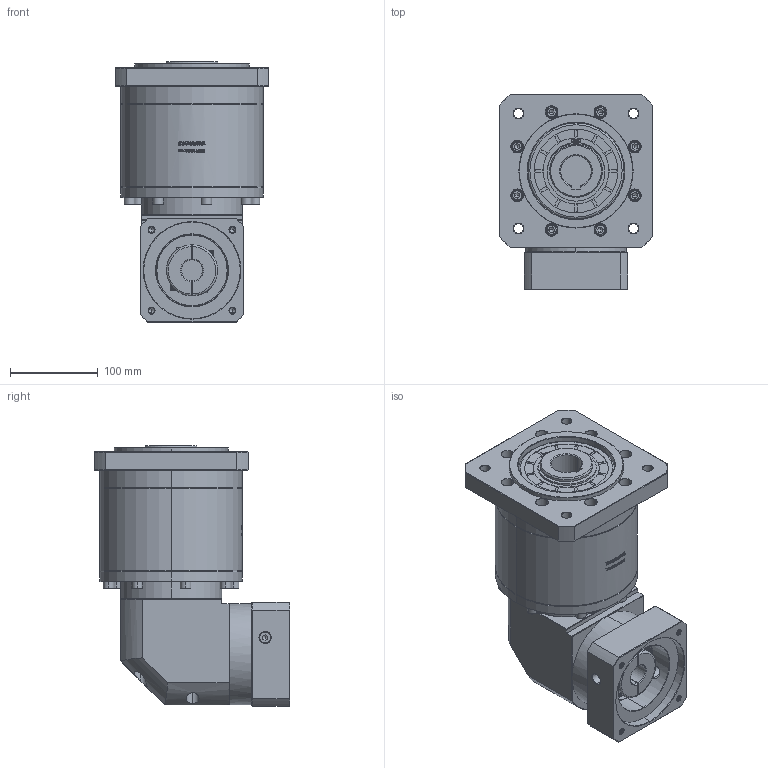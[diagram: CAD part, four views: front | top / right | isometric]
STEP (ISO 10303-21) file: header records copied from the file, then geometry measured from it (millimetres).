
FILE_DESCRIPTION (( 'STEP AP214' ), '1' );
FILE_NAME ('ZFR160A-K35-L3-24-110-130-M8.step', '2023-03-25T02:00:52', ( '' ), ( '' ), 'SwSTEP 2.0', 'SolidWorks 2016', '' );
FILE_SCHEMA (( 'AUTOMOTIVE_DESIGN' ));
Length unit declared in the file: millimetre
Products named in the file (1): ZFR160A-K35-L3-24-110-130-M8
Bounding box: 175 x 222.4 x 296.2 mm (x, y, z)
Volume: 5460291.2 mm3; surface area: 354099 mm2
Topology: 6 solids, 6 shells, 2724 faces, 7118 edges, 4566 vertices
Faces by surface type: plane 1366, bspline 490, cylinder 459, cone 365, torus 44
Entity records: 143598 total; most frequent: CARTESIAN_POINT 50804, ORIENTED_EDGE 14132, DIRECTION 11201, EDGE_CURVE 7066, VERTEX_POINT 4566, VECTOR 4445, LINE 4445, AXIS2_PLACEMENT_3D 3378
